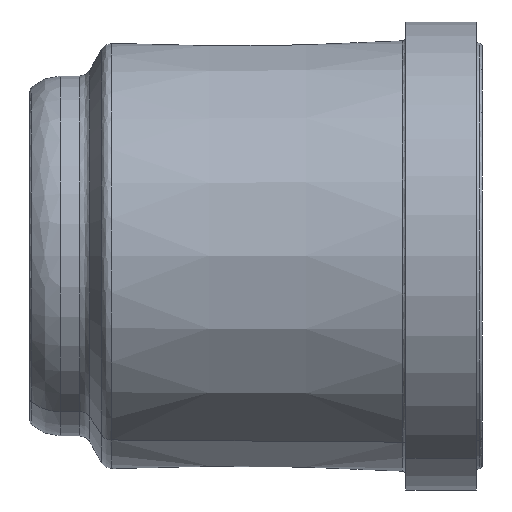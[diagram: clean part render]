
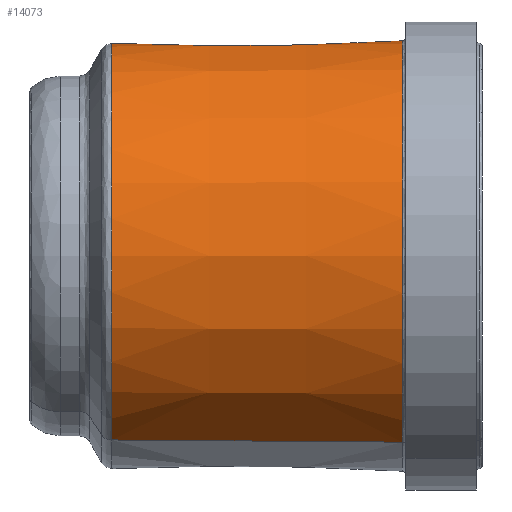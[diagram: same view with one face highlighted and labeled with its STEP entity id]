
A CAD part, top view. The second image highlights one B-rep face of the part: STEP entity #14073.
In plain terms, the highlighted conical face has half-angle 0.5 degrees and reference radius 9.041 mm.
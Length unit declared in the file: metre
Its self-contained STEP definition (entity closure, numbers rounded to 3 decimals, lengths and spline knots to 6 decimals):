
#122 = CARTESIAN_POINT ( 'NONE',  ( 0.003489, 0., 0. ) ) ;
#841 = DIRECTION ( 'NONE',  ( 0., 0., -1. ) ) ;
#1378 = CARTESIAN_POINT ( 'NONE',  ( 0.003489, 0., 0.009041 ) ) ;
#1397 = DIRECTION ( 'NONE',  ( 1., 0., 0. ) ) ;
#1554 = CIRCLE ( 'NONE', #13693, 0.009041 ) ;
#1796 = EDGE_CURVE ( 'NONE', #8036, #13408, #4224, .T. ) ;
#2004 = DIRECTION ( 'NONE',  ( 1., 0., 0.009 ) ) ;
#3094 = EDGE_CURVE ( 'NONE', #11522, #8036, #1554, .T. ) ;
#3170 = CIRCLE ( 'NONE', #4670, 0.009149 ) ;
#3652 = DIRECTION ( 'NONE',  ( 0., 0., -1. ) ) ;
#4016 = DIRECTION ( 'NONE',  ( -1., 0., 0. ) ) ;
#4224 = LINE ( 'NONE', #5582, #7091 ) ;
#4551 = EDGE_LOOP ( 'NONE', ( #6032, #13610, #6839, #5766 ) ) ;
#4670 = AXIS2_PLACEMENT_3D ( 'NONE', #15479, #5590, #841 ) ;
#5582 = CARTESIAN_POINT ( 'NONE',  ( 0.003489, 0., 0.009041 ) ) ;
#5590 = DIRECTION ( 'NONE',  ( 1., 0., 0. ) ) ;
#5766 = ORIENTED_EDGE ( 'NONE', *, *, #8358, .F. ) ;
#5950 = AXIS2_PLACEMENT_3D ( 'NONE', #122, #1397, #3652 ) ;
#6032 = ORIENTED_EDGE ( 'NONE', *, *, #1796, .F. ) ;
#6649 = CONICAL_SURFACE ( 'NONE', #5950, 0.009041, 0.009 ) ;
#6839 = ORIENTED_EDGE ( 'NONE', *, *, #12727, .T. ) ;
#7091 = VECTOR ( 'NONE', #2004, 1. ) ;
#8036 = VERTEX_POINT ( 'NONE', #1378 ) ;
#8358 = EDGE_CURVE ( 'NONE', #13408, #14567, #3170, .T. ) ;
#8669 = CARTESIAN_POINT ( 'NONE',  ( 0.003489, 0., -0.009041 ) ) ;
#9708 = VECTOR ( 'NONE', #15278, 1. ) ;
#9819 = CARTESIAN_POINT ( 'NONE',  ( 0.015851, 0., 0.009149 ) ) ;
#11522 = VERTEX_POINT ( 'NONE', #8669 ) ;
#12145 = FACE_OUTER_BOUND ( 'NONE', #4551, .T. ) ;
#12727 = EDGE_CURVE ( 'NONE', #11522, #14567, #15369, .T. ) ;
#13408 = VERTEX_POINT ( 'NONE', #9819 ) ;
#13556 = DIRECTION ( 'NONE',  ( 0., -1., 0. ) ) ;
#13610 = ORIENTED_EDGE ( 'NONE', *, *, #3094, .F. ) ;
#13693 = AXIS2_PLACEMENT_3D ( 'NONE', #14772, #4016, #13556 ) ;
#14073 = ADVANCED_FACE ( 'NONE', ( #12145 ), #6649, .T. ) ;
#14567 = VERTEX_POINT ( 'NONE', #15205 ) ;
#14772 = CARTESIAN_POINT ( 'NONE',  ( 0.003489, 0., 0. ) ) ;
#15205 = CARTESIAN_POINT ( 'NONE',  ( 0.015851, 0., -0.009149 ) ) ;
#15235 = CARTESIAN_POINT ( 'NONE',  ( 0.003489, 0., -0.009041 ) ) ;
#15278 = DIRECTION ( 'NONE',  ( 1., 0., -0.009 ) ) ;
#15369 = LINE ( 'NONE', #15235, #9708 ) ;
#15479 = CARTESIAN_POINT ( 'NONE',  ( 0.015851, 0., 0. ) ) ;
